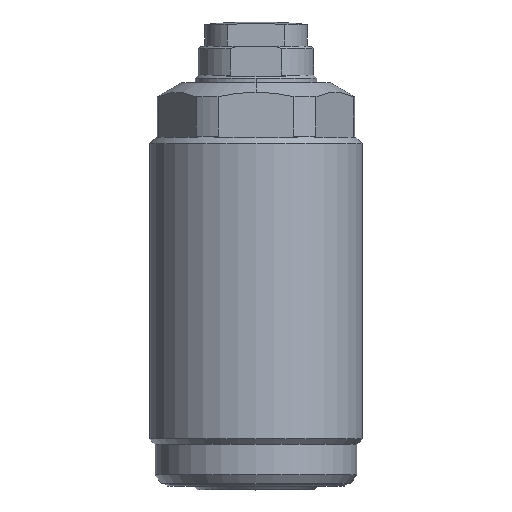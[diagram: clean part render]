
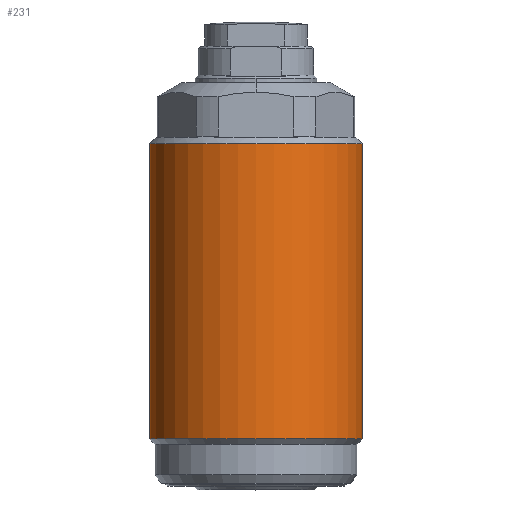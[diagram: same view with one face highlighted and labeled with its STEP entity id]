
A CAD part, top view. The second image highlights one B-rep face of the part: STEP entity #231.
In plain terms, the highlighted cylindrical face has radius 17.5 mm (diameter 35 mm), a partial arc.
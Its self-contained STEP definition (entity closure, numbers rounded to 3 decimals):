
#231=ADVANCED_FACE('',(#348),#299,.T.);
#299=CYLINDRICAL_SURFACE('',#1565,17.5);
#348=FACE_OUTER_BOUND('',#432,.T.);
#432=EDGE_LOOP('',(#772,#773,#774,#775));
#526=LINE('',#2331,#599);
#527=LINE('',#2335,#600);
#599=VECTOR('',#1868,1.);
#600=VECTOR('',#1871,1.);
#772=ORIENTED_EDGE('',*,*,#1259,.F.);
#773=ORIENTED_EDGE('',*,*,#1260,.T.);
#774=ORIENTED_EDGE('',*,*,#1261,.F.);
#775=ORIENTED_EDGE('',*,*,#1262,.F.);
#1107=VERTEX_POINT('',#2325);
#1108=VERTEX_POINT('',#2327);
#1109=VERTEX_POINT('',#2332);
#1110=VERTEX_POINT('',#2334);
#1259=EDGE_CURVE('',#1108,#1107,#1429,.T.);
#1260=EDGE_CURVE('',#1108,#1109,#526,.T.);
#1261=EDGE_CURVE('',#1110,#1109,#1430,.T.);
#1262=EDGE_CURVE('',#1107,#1110,#527,.T.);
#1429=CIRCLE('',#1563,17.5);
#1430=CIRCLE('',#1564,17.5);
#1563=AXIS2_PLACEMENT_3D('',#2330,#1866,#1867);
#1564=AXIS2_PLACEMENT_3D('',#2333,#1869,#1870);
#1565=AXIS2_PLACEMENT_3D('',#2336,#1872,#1873);
#1866=DIRECTION('',(1.,0.,0.));
#1867=DIRECTION('',(0.,0.,1.));
#1868=DIRECTION('',(-1.,0.,0.));
#1869=DIRECTION('',(-1.,0.,0.));
#1870=DIRECTION('',(0.,0.,-1.));
#1871=DIRECTION('',(-1.,0.,0.));
#1872=DIRECTION('',(-1.,0.,0.));
#1873=DIRECTION('',(0.,0.,-1.));
#2325=CARTESIAN_POINT('',(58.6,0.,17.5));
#2327=CARTESIAN_POINT('',(58.6,0.,-17.5));
#2330=CARTESIAN_POINT('',(58.6,0.,0.));
#2331=CARTESIAN_POINT('',(65.9,0.,-17.5));
#2332=CARTESIAN_POINT('',(10.05,0.,-17.5));
#2333=CARTESIAN_POINT('',(10.05,0.,0.));
#2334=CARTESIAN_POINT('',(10.05,0.,17.5));
#2335=CARTESIAN_POINT('',(65.9,0.,17.5));
#2336=CARTESIAN_POINT('',(65.9,0.,0.));
